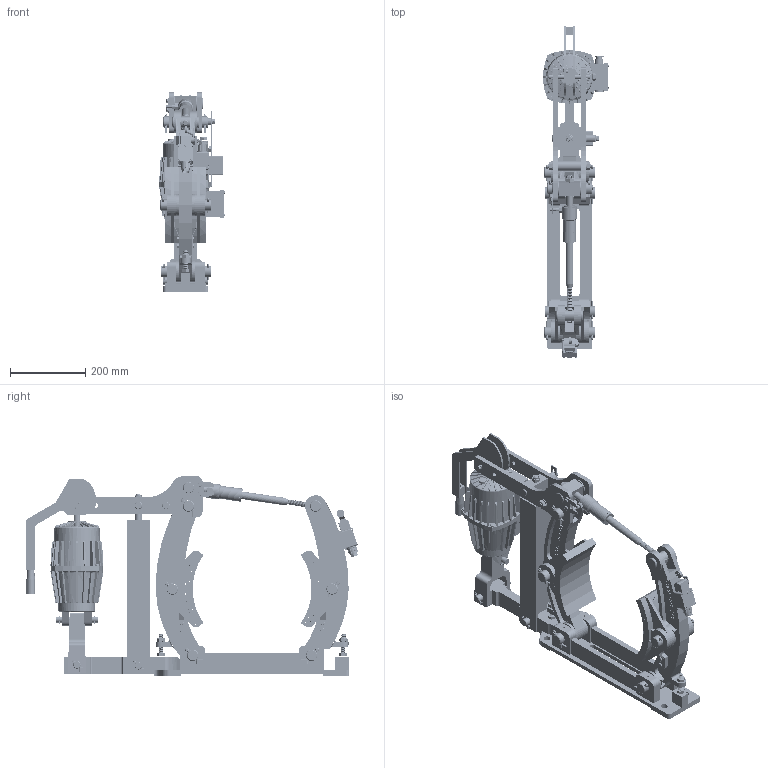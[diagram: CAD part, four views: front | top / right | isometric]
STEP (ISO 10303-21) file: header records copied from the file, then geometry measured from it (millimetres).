
FILE_DESCRIPTION((''),'2;1');
FILE_NAME('4459_314_506_E00001','2018-02-01T',('BOLS'),(''),'CREO PARAMETRIC BY PTC INC, 2017020','CREO PARAMETRIC BY PTC INC, 2017020','');
FILE_SCHEMA(('CONFIG_CONTROL_DESIGN'));
Products named in the file (1): 4459_314_506_E00001
Bounding box: 174.5 x 880.11 x 529 mm (x, y, z)
Surface area: 1832573.6 mm2 (no closed solid volume)
Topology: 0 solids, 5253 shells, 5751 faces, 36239 edges, 35163 vertices
Faces by surface type: plane 2836, cylinder 2089, cone 585, torus 225, bspline 16
Entity records: 587220 total; most frequent: CARTESIAN_POINT 156017, PRESENTATION_STYLE_ASSIGNMENT 47178, DIRECTION 42076, STYLED_ITEM 41427, ORIENTED_EDGE 37218, CURVE_STYLE 36174, EDGE_CURVE 36174, VERTEX_POINT 35142
